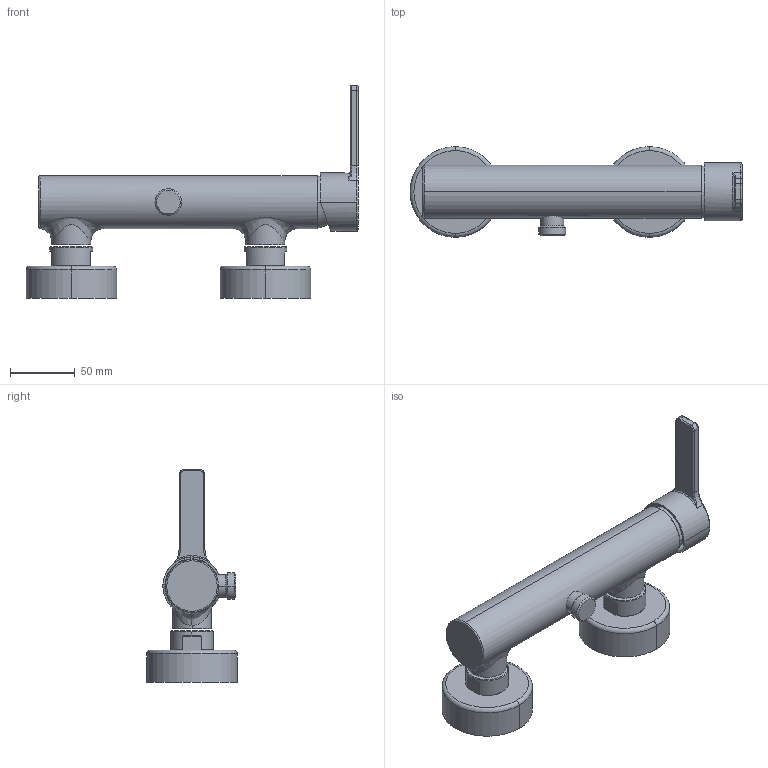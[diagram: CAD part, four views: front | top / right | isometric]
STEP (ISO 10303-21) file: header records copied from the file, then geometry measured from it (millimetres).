
FILE_DESCRIPTION((''),'2;1');
FILE_NAME('F3545_1_FILE_3D','2014-11-20T',('ivanv'),(''),'PRO/ENGINEER BY PARAMETRIC TECHNOLOGY CORPORATION, 2012130','PRO/ENGINEER BY PARAMETRIC TECHNOLOGY CORPORATION, 2012130','');
FILE_SCHEMA(('CONFIG_CONTROL_DESIGN'));
Length unit declared in the file: millimetre
Products named in the file (1): F3545_1_FILE_3D
Bounding box: 256.6 x 70 x 164.5 mm (x, y, z)
Volume: 365581.1 mm3; surface area: 114771.2 mm2
Topology: 3 solids, 3 shells, 281 faces, 685 edges, 432 vertices
Faces by surface type: plane 101, cylinder 99, cone 36, torus 23, bspline 22
Entity records: 12299 total; most frequent: CARTESIAN_POINT 5760, ORIENTED_EDGE 1370, DIRECTION 1355, EDGE_CURVE 685, AXIS2_PLACEMENT_3D 547, VERTEX_POINT 432, EDGE_LOOP 307, CIRCLE 288
